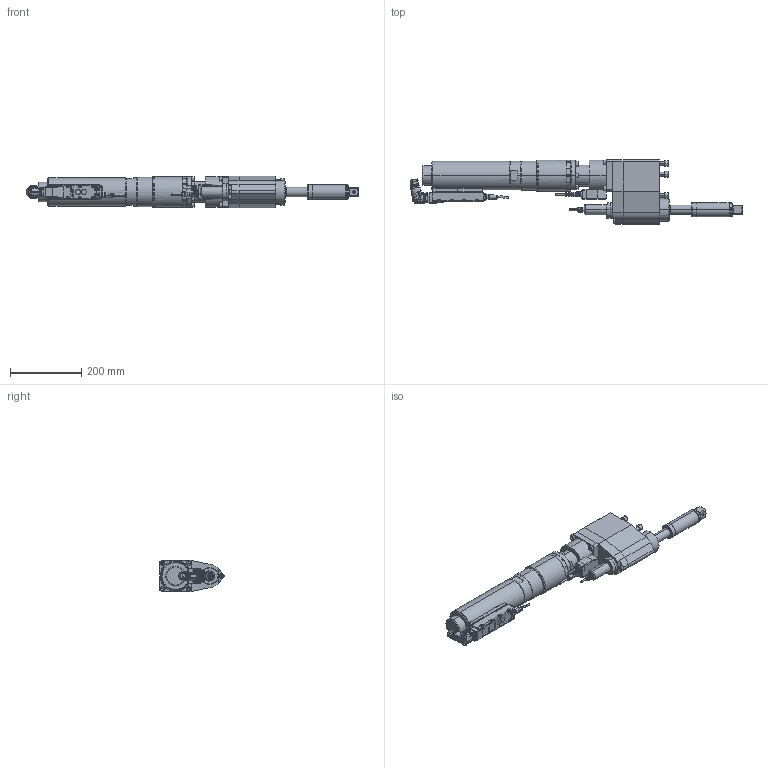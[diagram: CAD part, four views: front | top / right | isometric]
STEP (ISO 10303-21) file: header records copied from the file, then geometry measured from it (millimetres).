
FILE_DESCRIPTION (( 'STEP AP214' ), '1' );
FILE_NAME ('70082494_ESX461ZWRX800AODX460-800.STEP', '2018-11-28T09:19:52', ( 'admin' ), ( '' ), 'SwSTEP 2.0', 'SolidWorks 2017', '' );
FILE_SCHEMA (( 'AUTOMOTIVE_DESIGN' ));
Length unit declared in the file: millimetre
Products named in the file (11): 70057493_Standard_winkel; 70057493_4; 70057493_3; 70057493_2; 70082311; 70082494_ESX461ZWRX800AODX460-800; 7006176_3; 70082387; 70082336; 70082311_ESX461_Standard_Winkel; 70082293_2
Assembly tree (10 placements, depth 4):
  70082494_ESX461ZWRX800AODX460-800
    70082311_ESX461_Standard_Winkel
      70082311
      70057493_Standard_winkel
        70057493_2
        70057493_3
        70057493_4
      70082293_2
    70082336
    70082387
    7006176_3
Bounding box: 934.76 x 180.58 x 88 mm (x, y, z)
Volume: 5153778.6 mm3; surface area: 414577.3 mm2
Topology: 12 solids, 12 shells, 3205 faces, 8225 edges, 5228 vertices
Faces by surface type: plane 1351, cylinder 932, cone 469, bspline 307, torus 143, sphere 3
Entity records: 113425 total; most frequent: CARTESIAN_POINT 35260, ORIENTED_EDGE 16302, DIRECTION 14700, EDGE_CURVE 8151, AXIS2_PLACEMENT_3D 5526, VERTEX_POINT 5227, VECTOR 3648, LINE 3648
